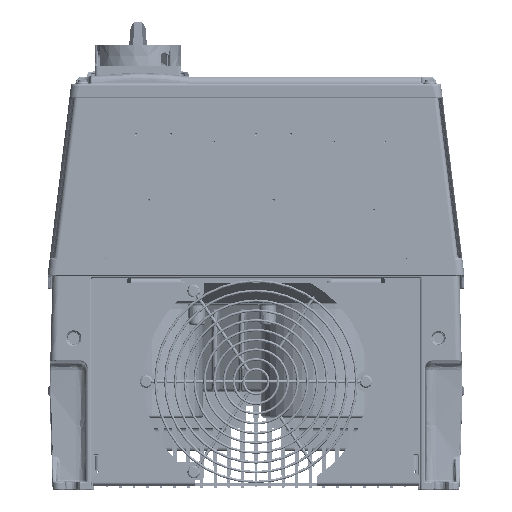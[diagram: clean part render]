
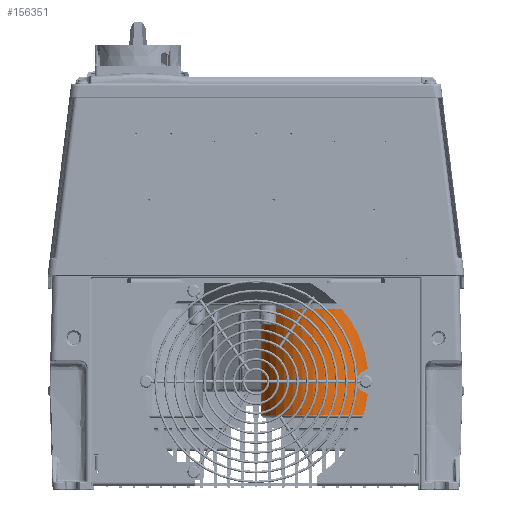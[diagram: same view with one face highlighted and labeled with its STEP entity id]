
A CAD part, front view. The second image highlights one B-rep face of the part: STEP entity #156351.
In plain terms, the highlighted cylindrical face has radius 46.1 mm (diameter 92.2 mm), a partial arc.
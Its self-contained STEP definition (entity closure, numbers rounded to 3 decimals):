
#28196=CARTESIAN_POINT('',(50.,-201.5,-104.813));
#28197=DIRECTION('',(0.,0.,1.));
#28198=DIRECTION('',(-1.,0.,0.));
#28199=AXIS2_PLACEMENT_3D('',#28196,#28197,#28198);
#28201=CARTESIAN_POINT('',(50.,-201.5,-26.2));
#28202=DIRECTION('',(0.,0.,-1.));
#28203=DIRECTION('',(0.,-1.,0.));
#28204=AXIS2_PLACEMENT_3D('',#28201,#28202,#28203);
#28206=CARTESIAN_POINT('',(50.,-201.5,-26.2));
#28207=DIRECTION('',(0.,0.,-1.));
#28208=DIRECTION('',(1.,0.,0.));
#28209=AXIS2_PLACEMENT_3D('',#28206,#28207,#28208);
#28211=DIRECTION('',(0.,0.,-1.));
#28212=VECTOR('',#28211,78.613);
#28213=CARTESIAN_POINT('',(96.1,-201.5,-26.2));
#28214=LINE('',#28213,#28212);
#28240=DIRECTION('',(0.,0.,-1.));
#28241=VECTOR('',#28240,78.613);
#28242=CARTESIAN_POINT('',(3.9,-201.5,-26.2));
#28243=LINE('',#28242,#28241);
#104664=CARTESIAN_POINT('',(96.1,-201.5,-26.2));
#104665=CARTESIAN_POINT('',(50.,-247.6,-26.2));
#104666=VERTEX_POINT('',#104664);
#104667=VERTEX_POINT('',#104665);
#104668=CARTESIAN_POINT('',(3.9,-201.5,-26.2));
#104669=VERTEX_POINT('',#104668);
#104690=CARTESIAN_POINT('',(96.1,-201.5,-104.813));
#104691=CARTESIAN_POINT('',(3.9,-201.5,-104.813));
#104692=VERTEX_POINT('',#104690);
#104693=VERTEX_POINT('',#104691);
#156335=CARTESIAN_POINT('',(50.,-201.5,3.));
#156336=DIRECTION('',(0.,0.,-1.));
#156337=DIRECTION('',(1.,0.,0.));
#156338=AXIS2_PLACEMENT_3D('',#156335,#156336,#156337);
#156339=CYLINDRICAL_SURFACE('',#156338,46.1);
#156341=ORIENTED_EDGE('',*,*,#156340,.F.);
#156343=ORIENTED_EDGE('',*,*,#156342,.F.);
#156345=ORIENTED_EDGE('',*,*,#156344,.F.);
#156346=ORIENTED_EDGE('',*,*,#156323,.F.);
#156348=ORIENTED_EDGE('',*,*,#156347,.T.);
#156349=EDGE_LOOP('',(#156341,#156343,#156345,#156346,#156348));
#156350=FACE_OUTER_BOUND('',#156349,.F.);
#28200=CIRCLE('',#28199,46.1);
#28205=CIRCLE('',#28204,46.1);
#28210=CIRCLE('',#28209,46.1);
#156323=EDGE_CURVE('',#104666,#104667,#28210,.T.);
#156340=EDGE_CURVE('',#104693,#104692,#28200,.T.);
#156342=EDGE_CURVE('',#104669,#104693,#28243,.T.);
#156344=EDGE_CURVE('',#104667,#104669,#28205,.T.);
#156347=EDGE_CURVE('',#104666,#104692,#28214,.T.);
#156351=ADVANCED_FACE('',(#156350),#156339,.T.);
